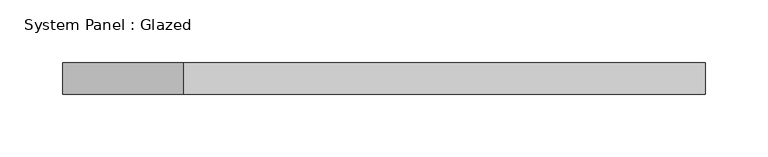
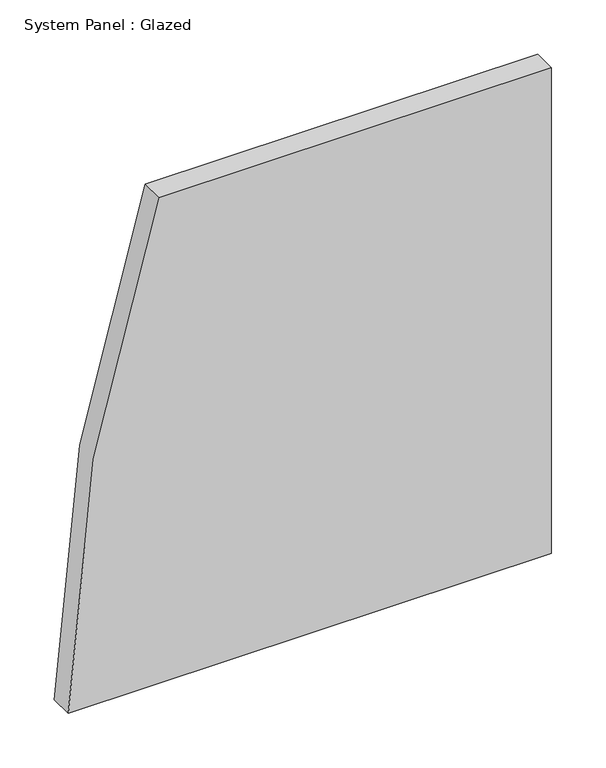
"""IFC4 building model written with IfcOpenShell, lengths in millimetres: plate geometry, System Panel : Glazed."""

from ifc_helpers import new_model, si_unit, point, frame, frame_2d, origin, place, context, project, spatial, polyline, circle_curve, trimmed, segment, composite_curve, outline, extrude, source, transform, mapped, element, save


def system_panel_glazed_302a988a(model_context):
    return source(origin(), model_context, "Body", "SweptSolid", [
        extrude(outline(composite_curve([segment(polyline([(0.0, -257.0322277), (0.0, 257.0322277), (546.1, 257.0322277), (546.1, -160.0625761)]), True, "CONTINUOUS"), segment(trimmed(circle_curve(frame_2d((-31.75, 1507.9822277)), 1765.3), [point((546.1, -160.0625761))], [point((0.0, -257.0322277))], False, "CARTESIAN"), True, "CONTINUOUS")], self_intersect=False)), frame((0.0, 19.05, 0.0), z_axis=(0.0, 1.0, 0.0), x_axis=(0.0, 0.0, 1.0)), (0.0, 0.0, 1.0), 25.4),
    ])


if __name__ == "__main__":
    model = new_model("IFC4")
    model_context = context("Model", 3, world=origin())
    ifc_project = project(units=[si_unit("LENGTHUNIT", "METRE", prefix="MILLI")], contexts=[model_context])
    site = spatial("IfcSite", under=ifc_project)
    building = spatial("IfcBuilding", under=site)
    placement = place(None, origin())
    system_panel_glazed_shape = system_panel_glazed_302a988a(model_context)
    element("IfcPlate", 1, ObjectType="System Panel : Glazed", at=placement, inside=building, context=model_context, shape_type="MappedRepresentation", body=[
        mapped(system_panel_glazed_shape, transform((0.0, 0.0, 0.0), x_axis=(1.0, 0.0, 0.0), y_axis=(0.0, 1.0, 0.0), z_axis=(0.0, 0.0, 1.0))),
    ])
    save(model, "model.ifc")
